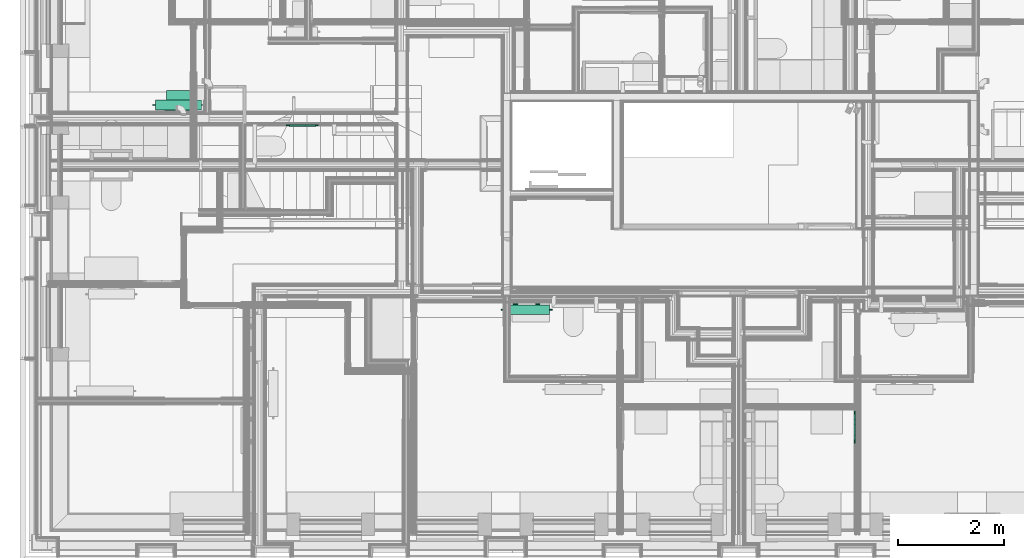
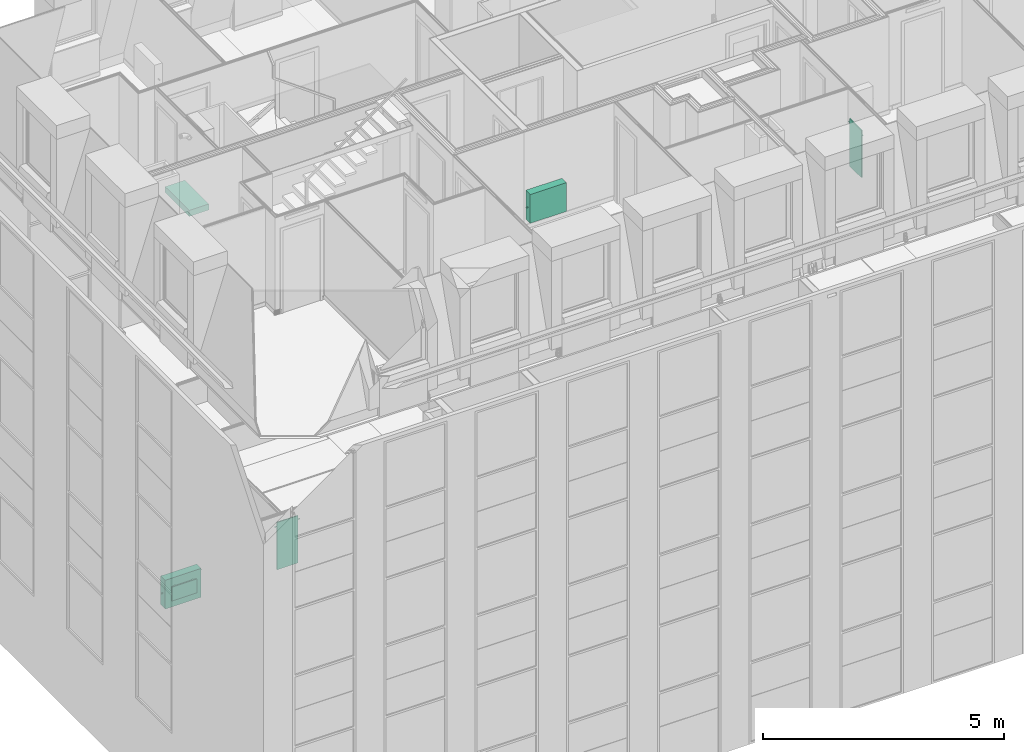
# One storey, part 146 of 169: 5 flow terminals.
"""IFC2X3 building model written with IfcOpenShell, lengths in metres."""

from ifc_helpers import new_model, entity, si_unit, converted_unit, derived_unit, money_unit, direction, frame, origin_with_axes, place, context, subcontext, project, spatial, open_shell, faceted_brep, surface_model, material, type_object, element, save


model = new_model("IFC2X3")

# Units and contexts
model_context = context("Model", 3, precision=1e-05, world=origin_with_axes(), true_north=direction((0.0, 1.0)))
body_context = subcontext(model_context, "Body", "Model", "MODEL_VIEW", scale=1.0)
ifc_project = project(units=[si_unit("LENGTHUNIT", "METRE"), si_unit("AREAUNIT", "SQUARE_METRE"), si_unit("VOLUMEUNIT", "CUBIC_METRE"), si_unit("ABSORBEDDOSEUNIT", "GRAY"), si_unit("AMOUNTOFSUBSTANCEUNIT", "MOLE"), si_unit("DOSEEQUIVALENTUNIT", "SIEVERT"), si_unit("ELECTRICCAPACITANCEUNIT", "FARAD"), si_unit("ELECTRICCHARGEUNIT", "COULOMB"), si_unit("ELECTRICCONDUCTANCEUNIT", "SIEMENS"), si_unit("ELECTRICCURRENTUNIT", "AMPERE"), si_unit("ELECTRICRESISTANCEUNIT", "OHM"), si_unit("ELECTRICVOLTAGEUNIT", "VOLT"), si_unit("ENERGYUNIT", "JOULE"), si_unit("FORCEUNIT", "NEWTON"), si_unit("FREQUENCYUNIT", "HERTZ"), si_unit("ILLUMINANCEUNIT", "LUX"), si_unit("INDUCTANCEUNIT", "HENRY"), si_unit("LUMINOUSFLUXUNIT", "LUMEN"), si_unit("LUMINOUSINTENSITYUNIT", "CANDELA"), si_unit("MAGNETICFLUXDENSITYUNIT", "TESLA"), si_unit("MAGNETICFLUXUNIT", "WEBER"), si_unit("MASSUNIT", "GRAM"), converted_unit("PLANEANGLEUNIT", "degree", entity("IfcReal", 0.0174532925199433), si_unit("PLANEANGLEUNIT", "RADIAN"), dimensions=[0, 0, 0, 0, 0, 0, 0]), si_unit("POWERUNIT", "WATT"), si_unit("PRESSUREUNIT", "PASCAL"), si_unit("RADIOACTIVITYUNIT", "BECQUEREL"), si_unit("SOLIDANGLEUNIT", "STERADIAN"), si_unit("THERMODYNAMICTEMPERATUREUNIT", "KELVIN"), si_unit("TIMEUNIT", "SECOND"), derived_unit("ACCELERATIONUNIT", [(si_unit("LENGTHUNIT", "METRE"), 1), (si_unit("TIMEUNIT", "SECOND"), -2)]), derived_unit("ANGULARVELOCITYUNIT", [(converted_unit("PLANEANGLEUNIT", "degree", entity("IfcReal", 0.0174532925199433), si_unit("PLANEANGLEUNIT", "RADIAN"), dimensions=[0, 0, 0, 0, 0, 0, 0]), 1), (si_unit("TIMEUNIT", "SECOND"), -1)]), derived_unit("CURVATUREUNIT", [(converted_unit("PLANEANGLEUNIT", "degree", entity("IfcReal", 0.0174532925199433), si_unit("PLANEANGLEUNIT", "RADIAN"), dimensions=[0, 0, 0, 0, 0, 0, 0]), 1), (si_unit("LENGTHUNIT", "METRE"), -1)]), derived_unit("DYNAMICVISCOSITYUNIT", [(si_unit("PRESSUREUNIT", "PASCAL"), 1), (si_unit("TIMEUNIT", "SECOND"), 1)]), derived_unit("HEATFLUXDENSITYUNIT", [(si_unit("POWERUNIT", "WATT"), 1), (si_unit("LENGTHUNIT", "METRE"), -2)]), derived_unit("HEATINGVALUEUNIT", [(si_unit("ENERGYUNIT", "JOULE"), 1), (si_unit("MASSUNIT", "GRAM"), -1)]), derived_unit("INTEGERCOUNTRATEUNIT", [(si_unit("TIMEUNIT", "SECOND"), -1)]), derived_unit("IONCONCENTRATIONUNIT", [(si_unit("MASSUNIT", "GRAM"), 1), (si_unit("VOLUMEUNIT", "CUBIC_METRE"), -1)]), derived_unit("ISOTHERMALMOISTURECAPACITYUNIT", [(si_unit("VOLUMEUNIT", "CUBIC_METRE"), 1), (si_unit("MASSUNIT", "GRAM"), -1)]), derived_unit("KINEMATICVISCOSITYUNIT", [(si_unit("AREAUNIT", "SQUARE_METRE"), 1), (si_unit("TIMEUNIT", "SECOND"), -1)]), derived_unit("LINEARFORCEUNIT", [(si_unit("FORCEUNIT", "NEWTON"), 1), (si_unit("LENGTHUNIT", "METRE"), -1)]), derived_unit("LINEARMOMENTUNIT", [(si_unit("FORCEUNIT", "NEWTON"), 1), (si_unit("LENGTHUNIT", "METRE"), -1)]), derived_unit("LINEARSTIFFNESSUNIT", [(si_unit("FORCEUNIT", "NEWTON"), 1), (si_unit("LENGTHUNIT", "METRE"), -1)]), derived_unit("LINEARVELOCITYUNIT", [(si_unit("LENGTHUNIT", "METRE"), 1), (si_unit("TIMEUNIT", "SECOND"), -1)]), derived_unit("LUMINOUSINTENSITYDISTRIBUTIONUNIT", [(si_unit("LUMINOUSINTENSITYUNIT", "CANDELA"), 1), (si_unit("LUMINOUSFLUXUNIT", "LUMEN"), -1)]), derived_unit("MASSDENSITYUNIT", [(si_unit("MASSUNIT", "GRAM"), 1), (si_unit("VOLUMEUNIT", "CUBIC_METRE"), -1)]), derived_unit("MASSFLOWRATEUNIT", [(si_unit("MASSUNIT", "GRAM"), 1), (si_unit("TIMEUNIT", "SECOND"), -1)]), derived_unit("MASSPERLENGTHUNIT", [(si_unit("MASSUNIT", "GRAM"), 1), (si_unit("LENGTHUNIT", "METRE"), -1)]), derived_unit("MODULUSOFELASTICITYUNIT", [(si_unit("FORCEUNIT", "NEWTON"), 1), (si_unit("AREAUNIT", "SQUARE_METRE"), -1)]), derived_unit("MODULUSOFLINEARSUBGRADEREACTIONUNIT", [(si_unit("FORCEUNIT", "NEWTON"), 1), (si_unit("LENGTHUNIT", "METRE"), -2)]), derived_unit("MODULUSOFROTATIONALSUBGRADEREACTIONUNIT", [(si_unit("FORCEUNIT", "NEWTON"), 1), (si_unit("LENGTHUNIT", "METRE"), 1)]), derived_unit("MODULUSOFSUBGRADEREACTIONUNIT", [(si_unit("FORCEUNIT", "NEWTON"), 1), (si_unit("VOLUMEUNIT", "CUBIC_METRE"), -1)]), derived_unit("MOISTUREDIFFUSIVITYUNIT", [(si_unit("VOLUMEUNIT", "CUBIC_METRE"), 1), (si_unit("TIMEUNIT", "SECOND"), -1)]), derived_unit("MOLECULARWEIGHTUNIT", [(si_unit("MASSUNIT", "GRAM"), 1), (si_unit("AMOUNTOFSUBSTANCEUNIT", "MOLE"), -1)]), derived_unit("PLANARFORCEUNIT", [(si_unit("FORCEUNIT", "NEWTON"), 1), (si_unit("LENGTHUNIT", "METRE"), -2)]), derived_unit("ROTATIONALFREQUENCYUNIT", [(si_unit("TIMEUNIT", "SECOND"), -1)]), derived_unit("ROTATIONALMASSUNIT", [(si_unit("MASSUNIT", "GRAM"), 1), (si_unit("LENGTHUNIT", "METRE"), 2)]), derived_unit("ROTATIONALSTIFFNESSUNIT", [(si_unit("FORCEUNIT", "NEWTON"), 1), (si_unit("LENGTHUNIT", "METRE"), 1), (converted_unit("PLANEANGLEUNIT", "degree", entity("IfcReal", 0.0174532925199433), si_unit("PLANEANGLEUNIT", "RADIAN"), dimensions=[0, 0, 0, 0, 0, 0, 0]), -1)]), derived_unit("SECTIONAREAINTEGRALUNIT", [(si_unit("LENGTHUNIT", "METRE"), 5)]), derived_unit("SECTIONMODULUSUNIT", [(si_unit("LENGTHUNIT", "METRE"), 3)]), derived_unit("SHEARMODULUSUNIT", [(si_unit("FORCEUNIT", "NEWTON"), 1), (si_unit("AREAUNIT", "SQUARE_METRE"), -1)]), derived_unit("SOUNDPOWERUNIT", [(si_unit("ENERGYUNIT", "JOULE"), 1), (si_unit("TIMEUNIT", "SECOND"), -1)]), derived_unit("SPECIFICHEATCAPACITYUNIT", [(si_unit("FORCEUNIT", "NEWTON"), 1), (si_unit("MASSUNIT", "GRAM"), -1), (si_unit("THERMODYNAMICTEMPERATUREUNIT", "KELVIN"), -1)]), derived_unit("TEMPERATUREGRADIENTUNIT", [(si_unit("THERMODYNAMICTEMPERATUREUNIT", "KELVIN"), 1), (si_unit("LENGTHUNIT", "METRE"), -1)]), derived_unit("THERMALADMITTANCEUNIT", [(si_unit("POWERUNIT", "WATT"), 1), (si_unit("AREAUNIT", "SQUARE_METRE"), -1), (si_unit("THERMODYNAMICTEMPERATUREUNIT", "KELVIN"), -1)]), derived_unit("THERMALCONDUCTANCEUNIT", [(si_unit("POWERUNIT", "WATT"), 1), (si_unit("LENGTHUNIT", "METRE"), -1), (si_unit("THERMODYNAMICTEMPERATUREUNIT", "KELVIN"), -1)]), derived_unit("THERMALEXPANSIONCOEFFICIENTUNIT", [(si_unit("THERMODYNAMICTEMPERATUREUNIT", "KELVIN"), -1)]), derived_unit("THERMALRESISTANCEUNIT", [(si_unit("AREAUNIT", "SQUARE_METRE"), 1), (si_unit("POWERUNIT", "WATT"), -1)]), derived_unit("THERMALTRANSMITTANCEUNIT", [(si_unit("POWERUNIT", "WATT"), 1), (si_unit("AREAUNIT", "SQUARE_METRE"), -1), (si_unit("THERMODYNAMICTEMPERATUREUNIT", "KELVIN"), -1)]), derived_unit("TORQUEUNIT", [(si_unit("FORCEUNIT", "NEWTON"), 1), (si_unit("LENGTHUNIT", "METRE"), 1)]), derived_unit("VAPORPERMEABILITYUNIT", [(si_unit("MASSUNIT", "GRAM"), 1), (si_unit("TIMEUNIT", "SECOND"), -1)]), derived_unit("VOLUMETRICFLOWRATEUNIT", [(si_unit("VOLUMEUNIT", "CUBIC_METRE"), 1), (si_unit("TIMEUNIT", "SECOND"), -1)]), derived_unit("WARPINGCONSTANTUNIT", [(si_unit("LENGTHUNIT", "METRE"), 6)]), derived_unit("WARPINGMOMENTUNIT", [(si_unit("FORCEUNIT", "NEWTON"), 1), (si_unit("LENGTHUNIT", "METRE"), 2)]), money_unit("GBP")], contexts=[model_context])

# Site, building, storey, space
site_placement = place(None, origin_with_axes())
site = spatial("IfcSite", under=ifc_project, at=site_placement, Name="Site", CompositionType="ELEMENT")
building_placement = place(site_placement, origin_with_axes())
building = spatial("IfcBuilding", under=site, at=building_placement, Name="Building01", CompositionType="ELEMENT")
storey_placement = place(building_placement, frame((0.0, 0.0, 5.15), z_axis=(0.0, 0.0, 1.0), x_axis=(1.0, 0.0, 0.0)))
storey = spatial("IfcBuildingStorey", under=building, at=storey_placement, Name="1F", CompositionType="ELEMENT", Elevation=5.15)
space_1_placement = place(storey_placement, frame((7.064669, 14.582, 0.017975), z_axis=(0.0, 0.0, 1.0), x_axis=(-1.0, 0.0, 0.0)))
space_1 = spatial("IfcSpace", under=storey, at=space_1_placement, Name="07", CompositionType="ELEMENT", InteriorOrExteriorSpace="NOTDEFINED")

# Flow terminal
ifc_material = material(Name="M_BSUK_Ventilation")
space_heater_type_1 = type_object("IfcSpaceHeaterType", Name="M-BmvRadiatorpanel-Panel", PredefinedType="NOTDEFINED")
flow_terminal_1_placement = place(storey_placement, frame((2.540669, 8.58092, 0.665), z_axis=(0.0, 0.0, 1.0), x_axis=(-1.0, 0.0, 0.0)))
element("IfcFlowTerminal", 1, at=flow_terminal_1_placement, inside=space_1, type_object=space_heater_type_1, material=ifc_material, Name="M-BmvRadiatorpanel-Panel", ObjectType="M-BmvRadiatorpanel-Panel", context=body_context, shape_type="SurfaceModel", body=[
    surface_model("IfcShellBasedSurfaceModel", [(-0.865, -0.0925, 0.365), (-0.865, 0.0925, 0.365), (0.0, 0.0925, 0.365), (0.0, -0.0925, 0.365), (-0.865, -0.0925, -0.365), (-0.865, 0.0925, -0.365), (0.0, -0.0925, -0.365), (0.0, 0.0925, -0.365), (-0.1325, 0.12025, 0.175), (-0.7325, 0.12025, 0.175), (-0.7325, 0.14525, 0.175), (-0.1325, 0.14525, 0.175), (-0.7325, 0.14525, -0.175), (-0.1325, 0.14525, -0.175), (-0.7325, 0.12025, -0.175), (-0.1325, 0.12025, -0.175), (-0.2225, 0.0925, 0.0775), (-0.2225, 0.12025, 0.0775), (-0.205279, 0.12025, 0.080925), (-0.205279, 0.0925, 0.080925), (-0.19068, 0.12025, 0.09068), (-0.19068, 0.0925, 0.09068), (-0.180925, 0.12025, 0.105279), (-0.180925, 0.0925, 0.105279), (-0.1775, 0.12025, 0.1225), (-0.1775, 0.0925, 0.1225), (-0.180925, 0.12025, 0.139721), (-0.180925, 0.0925, 0.139721), (-0.19068, 0.12025, 0.15432), (-0.19068, 0.0925, 0.15432), (-0.205279, 0.12025, 0.164075), (-0.205279, 0.0925, 0.164075), (-0.2225, 0.12025, 0.1675), (-0.2225, 0.0925, 0.1675), (-0.239721, 0.12025, 0.164075), (-0.239721, 0.0925, 0.164075), (-0.25432, 0.12025, 0.15432), (-0.25432, 0.0925, 0.15432), (-0.264075, 0.12025, 0.139721), (-0.264075, 0.0925, 0.139721), (-0.2675, 0.12025, 0.1225), (-0.2675, 0.0925, 0.1225), (-0.264075, 0.12025, 0.105279), (-0.264075, 0.0925, 0.105279), (-0.25432, 0.12025, 0.09068), (-0.25432, 0.0925, 0.09068), (-0.239721, 0.12025, 0.080925), (-0.239721, 0.0925, 0.080925), (-0.6425, 0.0925, 0.0775), (-0.6425, 0.12025, 0.0775), (-0.625279, 0.12025, 0.080925), (-0.625279, 0.0925, 0.080925), (-0.61068, 0.12025, 0.09068), (-0.61068, 0.0925, 0.09068), (-0.600925, 0.12025, 0.105279), (-0.600925, 0.0925, 0.105279), (-0.5975, 0.12025, 0.1225), (-0.5975, 0.0925, 0.1225), (-0.600925, 0.12025, 0.139721), (-0.600925, 0.0925, 0.139721), (-0.61068, 0.12025, 0.15432), (-0.61068, 0.0925, 0.15432), (-0.625279, 0.12025, 0.164075), (-0.625279, 0.0925, 0.164075), (-0.6425, 0.12025, 0.1675), (-0.6425, 0.0925, 0.1675), (-0.659721, 0.12025, 0.164075), (-0.659721, 0.0925, 0.164075), (-0.67432, 0.12025, 0.15432), (-0.67432, 0.0925, 0.15432), (-0.684075, 0.12025, 0.139721), (-0.684075, 0.0925, 0.139721), (-0.6875, 0.12025, 0.1225), (-0.6875, 0.0925, 0.1225), (-0.684075, 0.12025, 0.105279), (-0.684075, 0.0925, 0.105279), (-0.67432, 0.12025, 0.09068), (-0.67432, 0.0925, 0.09068), (-0.659721, 0.12025, 0.080925), (-0.659721, 0.0925, 0.080925), (0.05, 0.0, -0.0225), (0.0, 0.0, -0.0225), (0.0, 0.004784, -0.021548), (0.05, 0.004784, -0.021548), (0.0, 0.008839, -0.018839), (0.05, 0.008839, -0.018839), (0.0, 0.011548, -0.014784), (0.05, 0.011548, -0.014784), (0.0, 0.0125, -0.01), (0.05, 0.0125, -0.01), (0.0, 0.011548, -0.005216), (0.05, 0.011548, -0.005216), (0.0, 0.008839, -0.001161), (0.05, 0.008839, -0.001161), (0.0, 0.004784, 0.001548), (0.05, 0.004784, 0.001548), (0.0, 0.0, 0.0025), (0.05, 0.0, 0.0025), (0.0, -0.004784, 0.001548), (0.05, -0.004784, 0.001548), (0.0, -0.008839, -0.001161), (0.05, -0.008839, -0.001161), (0.0, -0.011548, -0.005216), (0.05, -0.011548, -0.005216), (0.0, -0.0125, -0.01), (0.05, -0.0125, -0.01), (0.0, -0.011548, -0.014784), (0.05, -0.011548, -0.014784), (0.0, -0.008839, -0.018839), (0.05, -0.008839, -0.018839), (0.0, -0.004784, -0.021548), (0.05, -0.004784, -0.021548), (-0.915, 0.0, 0.2525), (-0.865, 0.0, 0.2525), (-0.865, -0.004784, 0.253452), (-0.915, -0.004784, 0.253452), (-0.865, -0.008839, 0.256161), (-0.915, -0.008839, 0.256161), (-0.865, -0.011548, 0.260216), (-0.915, -0.011548, 0.260216), (-0.865, -0.0125, 0.265), (-0.915, -0.0125, 0.265), (-0.865, -0.011548, 0.269784), (-0.915, -0.011548, 0.269784), (-0.865, -0.008839, 0.273839), (-0.915, -0.008839, 0.273839), (-0.865, -0.004784, 0.276548), (-0.915, -0.004784, 0.276548), (-0.865, 0.0, 0.2775), (-0.915, 0.0, 0.2775), (-0.865, 0.004784, 0.276548), (-0.915, 0.004784, 0.276548), (-0.865, 0.008839, 0.273839), (-0.915, 0.008839, 0.273839), (-0.865, 0.011548, 0.269784), (-0.915, 0.011548, 0.269784), (-0.865, 0.0125, 0.265), (-0.915, 0.0125, 0.265), (-0.865, 0.011548, 0.260216), (-0.915, 0.011548, 0.260216), (-0.865, 0.008839, 0.256161), (-0.915, 0.008839, 0.256161), (-0.865, 0.004784, 0.253452), (-0.915, 0.004784, 0.253452)], [open_shell([[[0, 1, 2, 3]], [[4, 5, 1, 0]], [[6, 7, 5, 4]], [[3, 2, 7, 6]], [[1, 5, 7, 2]], [[3, 6, 4, 0]], [[8, 9, 10, 11]], [[11, 10, 12, 13]], [[13, 12, 14, 15]], [[15, 14, 9, 8]], [[9, 14, 12, 10]], [[11, 13, 15, 8]], [[16, 17, 18, 19]], [[19, 18, 20, 21]], [[21, 20, 22, 23]], [[23, 22, 24, 25]], [[25, 24, 26, 27]], [[27, 26, 28, 29]], [[29, 28, 30, 31]], [[31, 30, 32, 33]], [[33, 32, 34, 35]], [[35, 34, 36, 37]], [[37, 36, 38, 39]], [[39, 38, 40, 41]], [[41, 40, 42, 43]], [[43, 42, 44, 45]], [[45, 44, 46, 47]], [[47, 46, 17, 16]], [[48, 49, 50, 51]], [[51, 50, 52, 53]], [[53, 52, 54, 55]], [[55, 54, 56, 57]], [[57, 56, 58, 59]], [[59, 58, 60, 61]], [[61, 60, 62, 63]], [[63, 62, 64, 65]], [[65, 64, 66, 67]], [[67, 66, 68, 69]], [[69, 68, 70, 71]], [[71, 70, 72, 73]], [[73, 72, 74, 75]], [[75, 74, 76, 77]], [[77, 76, 78, 79]], [[79, 78, 49, 48]], [[80, 81, 82, 83]], [[83, 82, 84, 85]], [[85, 84, 86, 87]], [[87, 86, 88, 89]], [[89, 88, 90, 91]], [[91, 90, 92, 93]], [[93, 92, 94, 95]], [[95, 94, 96, 97]], [[97, 96, 98, 99]], [[99, 98, 100, 101]], [[101, 100, 102, 103]], [[103, 102, 104, 105]], [[105, 104, 106, 107]], [[107, 106, 108, 109]], [[109, 108, 110, 111]], [[111, 110, 81, 80]], [[112, 113, 114, 115]], [[115, 114, 116, 117]], [[117, 116, 118, 119]], [[119, 118, 120, 121]], [[121, 120, 122, 123]], [[123, 122, 124, 125]], [[125, 124, 126, 127]], [[127, 126, 128, 129]], [[129, 128, 130, 131]], [[131, 130, 132, 133]], [[133, 132, 134, 135]], [[135, 134, 136, 137]], [[137, 136, 138, 139]], [[139, 138, 140, 141]], [[141, 140, 142, 143]], [[143, 142, 113, 112]]])]),
])

# Space
space_2_placement = place(storey_placement, frame((12.175, 4.189428, 9.86), z_axis=(0.0, 0.0, 1.0), x_axis=(0.0, 1.0, 0.0)))
space_2 = spatial("IfcSpace", under=storey, at=space_2_placement, Name="25", CompositionType="ELEMENT", InteriorOrExteriorSpace="NOTDEFINED")

# Flow terminal
flow_terminal_2_placement = place(storey_placement, frame((9.0825, 4.73475, 10.495), z_axis=(0.0, 0.0, 1.0), x_axis=(1.0, 0.0, 0.0)))
element("IfcFlowTerminal", 2, at=flow_terminal_2_placement, inside=space_2, type_object=space_heater_type_1, material=ifc_material, Name="M-BmvRadiatorpanel-Panel", ObjectType="M-BmvRadiatorpanel-Panel", context=body_context, shape_type="SurfaceModel", body=[
    surface_model("IfcShellBasedSurfaceModel", [(0.865, -0.0925, 0.365), (0.865, 0.0925, 0.365), (0.0, 0.0925, 0.365), (0.0, -0.0925, 0.365), (0.865, -0.0925, -0.365), (0.865, 0.0925, -0.365), (0.0, -0.0925, -0.365), (0.0, 0.0925, -0.365), (0.1325, 0.12025, 0.175), (0.7325, 0.12025, 0.175), (0.7325, 0.14525, 0.175), (0.1325, 0.14525, 0.175), (0.7325, 0.14525, -0.175), (0.1325, 0.14525, -0.175), (0.7325, 0.12025, -0.175), (0.1325, 0.12025, -0.175), (0.2225, 0.0925, 0.0775), (0.2225, 0.12025, 0.0775), (0.239721, 0.12025, 0.080925), (0.239721, 0.0925, 0.080925), (0.25432, 0.12025, 0.09068), (0.25432, 0.0925, 0.09068), (0.264075, 0.12025, 0.105279), (0.264075, 0.0925, 0.105279), (0.2675, 0.12025, 0.1225), (0.2675, 0.0925, 0.1225), (0.264075, 0.12025, 0.139721), (0.264075, 0.0925, 0.139721), (0.25432, 0.12025, 0.15432), (0.25432, 0.0925, 0.15432), (0.239721, 0.12025, 0.164075), (0.239721, 0.0925, 0.164075), (0.2225, 0.12025, 0.1675), (0.2225, 0.0925, 0.1675), (0.205279, 0.12025, 0.164075), (0.205279, 0.0925, 0.164075), (0.19068, 0.12025, 0.15432), (0.19068, 0.0925, 0.15432), (0.180925, 0.12025, 0.139721), (0.180925, 0.0925, 0.139721), (0.1775, 0.12025, 0.1225), (0.1775, 0.0925, 0.1225), (0.180925, 0.12025, 0.105279), (0.180925, 0.0925, 0.105279), (0.19068, 0.12025, 0.09068), (0.19068, 0.0925, 0.09068), (0.205279, 0.12025, 0.080925), (0.205279, 0.0925, 0.080925), (0.6425, 0.0925, 0.0775), (0.6425, 0.12025, 0.0775), (0.659721, 0.12025, 0.080925), (0.659721, 0.0925, 0.080925), (0.67432, 0.12025, 0.09068), (0.67432, 0.0925, 0.09068), (0.684075, 0.12025, 0.105279), (0.684075, 0.0925, 0.105279), (0.6875, 0.12025, 0.1225), (0.6875, 0.0925, 0.1225), (0.684075, 0.12025, 0.139721), (0.684075, 0.0925, 0.139721), (0.67432, 0.12025, 0.15432), (0.67432, 0.0925, 0.15432), (0.659721, 0.12025, 0.164075), (0.659721, 0.0925, 0.164075), (0.6425, 0.12025, 0.1675), (0.6425, 0.0925, 0.1675), (0.625279, 0.12025, 0.164075), (0.625279, 0.0925, 0.164075), (0.61068, 0.12025, 0.15432), (0.61068, 0.0925, 0.15432), (0.600925, 0.12025, 0.139721), (0.600925, 0.0925, 0.139721), (0.5975, 0.12025, 0.1225), (0.5975, 0.0925, 0.1225), (0.600925, 0.12025, 0.105279), (0.600925, 0.0925, 0.105279), (0.61068, 0.12025, 0.09068), (0.61068, 0.0925, 0.09068), (0.625279, 0.12025, 0.080925), (0.625279, 0.0925, 0.080925), (-0.05, 0.0, -0.0225), (0.0, 0.0, -0.0225), (0.0, -0.004784, -0.021548), (-0.05, -0.004784, -0.021548), (0.0, -0.008839, -0.018839), (-0.05, -0.008839, -0.018839), (0.0, -0.011548, -0.014784), (-0.05, -0.011548, -0.014784), (0.0, -0.0125, -0.01), (-0.05, -0.0125, -0.01), (0.0, -0.011548, -0.005216), (-0.05, -0.011548, -0.005216), (0.0, -0.008839, -0.001161), (-0.05, -0.008839, -0.001161), (0.0, -0.004784, 0.001548), (-0.05, -0.004784, 0.001548), (0.0, 0.0, 0.0025), (-0.05, 0.0, 0.0025), (0.0, 0.004784, 0.001548), (-0.05, 0.004784, 0.001548), (0.0, 0.008839, -0.001161), (-0.05, 0.008839, -0.001161), (0.0, 0.011548, -0.005216), (-0.05, 0.011548, -0.005216), (0.0, 0.0125, -0.01), (-0.05, 0.0125, -0.01), (0.0, 0.011548, -0.014784), (-0.05, 0.011548, -0.014784), (0.0, 0.008839, -0.018839), (-0.05, 0.008839, -0.018839), (0.0, 0.004784, -0.021548), (-0.05, 0.004784, -0.021548), (0.915, 0.0, 0.2525), (0.865, 0.0, 0.2525), (0.865, 0.004784, 0.253452), (0.915, 0.004784, 0.253452), (0.865, 0.008839, 0.256161), (0.915, 0.008839, 0.256161), (0.865, 0.011548, 0.260216), (0.915, 0.011548, 0.260216), (0.865, 0.0125, 0.265), (0.915, 0.0125, 0.265), (0.865, 0.011548, 0.269784), (0.915, 0.011548, 0.269784), (0.865, 0.008839, 0.273839), (0.915, 0.008839, 0.273839), (0.865, 0.004784, 0.276548), (0.915, 0.004784, 0.276548), (0.865, 0.0, 0.2775), (0.915, 0.0, 0.2775), (0.865, -0.004784, 0.276548), (0.915, -0.004784, 0.276548), (0.865, -0.008839, 0.273839), (0.915, -0.008839, 0.273839), (0.865, -0.011548, 0.269784), (0.915, -0.011548, 0.269784), (0.865, -0.0125, 0.265), (0.915, -0.0125, 0.265), (0.865, -0.011548, 0.260216), (0.915, -0.011548, 0.260216), (0.865, -0.008839, 0.256161), (0.915, -0.008839, 0.256161), (0.865, -0.004784, 0.253452), (0.915, -0.004784, 0.253452)], [open_shell([[[0, 1, 2, 3]], [[4, 5, 1, 0]], [[6, 7, 5, 4]], [[3, 2, 7, 6]], [[1, 5, 7, 2]], [[3, 6, 4, 0]], [[8, 9, 10, 11]], [[11, 10, 12, 13]], [[13, 12, 14, 15]], [[15, 14, 9, 8]], [[9, 14, 12, 10]], [[11, 13, 15, 8]], [[16, 17, 18, 19]], [[19, 18, 20, 21]], [[21, 20, 22, 23]], [[23, 22, 24, 25]], [[25, 24, 26, 27]], [[27, 26, 28, 29]], [[29, 28, 30, 31]], [[31, 30, 32, 33]], [[33, 32, 34, 35]], [[35, 34, 36, 37]], [[37, 36, 38, 39]], [[39, 38, 40, 41]], [[41, 40, 42, 43]], [[43, 42, 44, 45]], [[45, 44, 46, 47]], [[47, 46, 17, 16]], [[48, 49, 50, 51]], [[51, 50, 52, 53]], [[53, 52, 54, 55]], [[55, 54, 56, 57]], [[57, 56, 58, 59]], [[59, 58, 60, 61]], [[61, 60, 62, 63]], [[63, 62, 64, 65]], [[65, 64, 66, 67]], [[67, 66, 68, 69]], [[69, 68, 70, 71]], [[71, 70, 72, 73]], [[73, 72, 74, 75]], [[75, 74, 76, 77]], [[77, 76, 78, 79]], [[79, 78, 49, 48]], [[80, 81, 82, 83]], [[83, 82, 84, 85]], [[85, 84, 86, 87]], [[87, 86, 88, 89]], [[89, 88, 90, 91]], [[91, 90, 92, 93]], [[93, 92, 94, 95]], [[95, 94, 96, 97]], [[97, 96, 98, 99]], [[99, 98, 100, 101]], [[101, 100, 102, 103]], [[103, 102, 104, 105]], [[105, 104, 106, 107]], [[107, 106, 108, 109]], [[109, 108, 110, 111]], [[111, 110, 81, 80]], [[112, 113, 114, 115]], [[115, 114, 116, 117]], [[117, 116, 118, 119]], [[119, 118, 120, 121]], [[121, 120, 122, 123]], [[123, 122, 124, 125]], [[125, 124, 126, 127]], [[127, 126, 128, 129]], [[129, 128, 130, 131]], [[131, 130, 132, 133]], [[133, 132, 134, 135]], [[135, 134, 136, 137]], [[137, 136, 138, 139]], [[139, 138, 140, 141]], [[141, 140, 142, 143]], [[143, 142, 113, 112]]])]),
])

# Space
space_3_placement = place(storey_placement, frame((4.24073, 6.606475, 0.017975), z_axis=(0.0, 0.0, 1.0), x_axis=(1.0, 0.0, 0.0)))
space_3 = spatial("IfcSpace", under=storey, at=space_3_placement, Name="bath", CompositionType="ELEMENT", InteriorOrExteriorSpace="NOTDEFINED")

# Flow terminal
space_heater_type_2 = type_object("IfcSpaceHeaterType", Name="M-BmvRadiator-Column", PredefinedType="NOTDEFINED")
flow_terminal_3_placement = place(storey_placement, frame((5.054088, 8.19817, 1.2), z_axis=(0.0, 0.0, 1.0), x_axis=(1.0, 0.0, 0.0)))
element("IfcFlowTerminal", 3, at=flow_terminal_3_placement, inside=space_3, type_object=space_heater_type_2, material=ifc_material, Name="M-BmvRadiator-Column", ObjectType="M-BmvRadiator-Column", context=body_context, shape_type="SurfaceModel", body=[
    surface_model("IfcShellBasedSurfaceModel", [(0.0, -0.0125, 0.6), (0.0, -0.0125, -0.6), (0.0, 0.0125, -0.6), (0.0, 0.0125, 0.6), (0.5, -0.0125, 0.6), (0.5, -0.0125, -0.6), (0.5, 0.0125, -0.6), (0.5, 0.0125, 0.6), (0.1, 0.0125, 0.6), (0.1, -0.0125, 0.6), (0.1, -0.0125, -0.6), (0.1, 0.0125, -0.6), (0.2, 0.0125, 0.6), (0.2, -0.0125, 0.6), (0.2, -0.0125, -0.6), (0.2, 0.0125, -0.6), (0.3, 0.0125, 0.6), (0.3, -0.0125, 0.6), (0.3, -0.0125, -0.6), (0.3, 0.0125, -0.6), (0.4, 0.0125, 0.6), (0.4, -0.0125, 0.6), (0.4, -0.0125, -0.6), (0.4, 0.0125, -0.6), (-0.05, 0.0, 0.4825), (0.0, 0.0, 0.4825), (0.0, -0.003827, 0.483261), (-0.05, -0.003827, 0.483261), (0.0, -0.007071, 0.485429), (-0.05, -0.007071, 0.485429), (0.0, -0.009239, 0.488673), (-0.05, -0.009239, 0.488673), (0.0, -0.01, 0.4925), (-0.05, -0.01, 0.4925), (0.0, -0.009239, 0.496327), (-0.05, -0.009239, 0.496327), (0.0, -0.007071, 0.499571), (-0.05, -0.007071, 0.499571), (0.0, -0.003827, 0.501739), (-0.05, -0.003827, 0.501739), (0.0, 0.0, 0.5025), (-0.05, 0.0, 0.5025), (0.0, 0.003827, 0.501739), (-0.05, 0.003827, 0.501739), (0.0, 0.007071, 0.499571), (-0.05, 0.007071, 0.499571), (0.0, 0.009239, 0.496327), (-0.05, 0.009239, 0.496327), (0.0, 0.01, 0.4925), (-0.05, 0.01, 0.4925), (0.0, 0.009239, 0.488673), (-0.05, 0.009239, 0.488673), (0.0, 0.007071, 0.485429), (-0.05, 0.007071, 0.485429), (0.0, 0.003827, 0.483261), (-0.05, 0.003827, 0.483261), (0.55, 0.0, 0.4884), (0.5, 0.0, 0.4884), (0.5, 0.003827, 0.489161), (0.55, 0.003827, 0.489161), (0.5, 0.007071, 0.491329), (0.55, 0.007071, 0.491329), (0.5, 0.009239, 0.494573), (0.55, 0.009239, 0.494573), (0.5, 0.01, 0.4984), (0.55, 0.01, 0.4984), (0.5, 0.009239, 0.502227), (0.55, 0.009239, 0.502227), (0.5, 0.007071, 0.505471), (0.55, 0.007071, 0.505471), (0.5, 0.003827, 0.507639), (0.55, 0.003827, 0.507639), (0.5, 0.0, 0.5084), (0.55, 0.0, 0.5084), (0.5, -0.003827, 0.507639), (0.55, -0.003827, 0.507639), (0.5, -0.007071, 0.505471), (0.55, -0.007071, 0.505471), (0.5, -0.009239, 0.502227), (0.55, -0.009239, 0.502227), (0.5, -0.01, 0.4984), (0.55, -0.01, 0.4984), (0.5, -0.009239, 0.494573), (0.55, -0.009239, 0.494573), (0.5, -0.007071, 0.491329), (0.55, -0.007071, 0.491329), (0.5, -0.003827, 0.489161), (0.55, -0.003827, 0.489161)], [open_shell([[[0, 1, 2, 3]], [[4, 5, 6, 7]], [[8, 3, 0, 9]], [[9, 0, 1, 10]], [[10, 1, 2, 11]], [[11, 2, 3, 8]], [[12, 8, 9, 13]], [[13, 9, 10, 14]], [[14, 10, 11, 15]], [[15, 11, 8, 12]], [[16, 12, 13, 17]], [[17, 13, 14, 18]], [[18, 14, 15, 19]], [[19, 15, 12, 16]], [[20, 16, 17, 21]], [[21, 17, 18, 22]], [[22, 18, 19, 23]], [[23, 19, 16, 20]], [[7, 20, 21, 4]], [[4, 21, 22, 5]], [[5, 22, 23, 6]], [[6, 23, 20, 7]], [[24, 25, 26, 27]], [[27, 26, 28, 29]], [[29, 28, 30, 31]], [[31, 30, 32, 33]], [[33, 32, 34, 35]], [[35, 34, 36, 37]], [[37, 36, 38, 39]], [[39, 38, 40, 41]], [[41, 40, 42, 43]], [[43, 42, 44, 45]], [[45, 44, 46, 47]], [[47, 46, 48, 49]], [[49, 48, 50, 51]], [[51, 50, 52, 53]], [[53, 52, 54, 55]], [[55, 54, 25, 24]], [[56, 57, 58, 59]], [[59, 58, 60, 61]], [[61, 60, 62, 63]], [[63, 62, 64, 65]], [[65, 64, 66, 67]], [[67, 66, 68, 69]], [[69, 68, 70, 71]], [[71, 70, 72, 73]], [[73, 72, 74, 75]], [[75, 74, 76, 77]], [[77, 76, 78, 79]], [[79, 78, 80, 81]], [[81, 80, 82, 83]], [[83, 82, 84, 85]], [[85, 84, 86, 87]], [[87, 86, 57, 56]]])]),
])

# Space
space_4_placement = place(storey_placement, frame((15.69, 2.869761, 9.86), z_axis=(0.0, 0.0, 1.0), x_axis=(-1.0, 0.0, 0.0)))
space_4 = spatial("IfcSpace", under=storey, at=space_4_placement, Name="ensuite", CompositionType="ELEMENT", InteriorOrExteriorSpace="NOTDEFINED")

# Flow terminal
flow_terminal_4_placement = place(storey_placement, frame((15.6775, 2.780835, 11.015), z_axis=(0.0, 0.0, 1.0), x_axis=(0.0, -1.0, 0.0)))
element("IfcFlowTerminal", 4, at=flow_terminal_4_placement, inside=space_4, type_object=space_heater_type_2, material=ifc_material, Name="M-BmvRadiator-Column", ObjectType="M-BmvRadiator-Column", context=body_context, shape_type="SurfaceModel", body=[
    surface_model("IfcShellBasedSurfaceModel", [(0.0, -0.0125, 0.6), (0.0, -0.0125, -0.6), (0.0, 0.0125, -0.6), (0.0, 0.0125, 0.6), (0.5, -0.0125, 0.6), (0.5, -0.0125, -0.6), (0.5, 0.0125, -0.6), (0.5, 0.0125, 0.6), (0.1, 0.0125, 0.6), (0.1, -0.0125, 0.6), (0.1, -0.0125, -0.6), (0.1, 0.0125, -0.6), (0.2, 0.0125, 0.6), (0.2, -0.0125, 0.6), (0.2, -0.0125, -0.6), (0.2, 0.0125, -0.6), (0.3, 0.0125, 0.6), (0.3, -0.0125, 0.6), (0.3, -0.0125, -0.6), (0.3, 0.0125, -0.6), (0.4, 0.0125, 0.6), (0.4, -0.0125, 0.6), (0.4, -0.0125, -0.6), (0.4, 0.0125, -0.6), (-0.05, 0.0, 0.4825), (0.0, 0.0, 0.4825), (0.0, -0.003827, 0.483261), (-0.05, -0.003827, 0.483261), (0.0, -0.007071, 0.485429), (-0.05, -0.007071, 0.485429), (0.0, -0.009239, 0.488673), (-0.05, -0.009239, 0.488673), (0.0, -0.01, 0.4925), (-0.05, -0.01, 0.4925), (0.0, -0.009239, 0.496327), (-0.05, -0.009239, 0.496327), (0.0, -0.007071, 0.499571), (-0.05, -0.007071, 0.499571), (0.0, -0.003827, 0.501739), (-0.05, -0.003827, 0.501739), (0.0, 0.0, 0.5025), (-0.05, 0.0, 0.5025), (0.0, 0.003827, 0.501739), (-0.05, 0.003827, 0.501739), (0.0, 0.007071, 0.499571), (-0.05, 0.007071, 0.499571), (0.0, 0.009239, 0.496327), (-0.05, 0.009239, 0.496327), (0.0, 0.01, 0.4925), (-0.05, 0.01, 0.4925), (0.0, 0.009239, 0.488673), (-0.05, 0.009239, 0.488673), (0.0, 0.007071, 0.485429), (-0.05, 0.007071, 0.485429), (0.0, 0.003827, 0.483261), (-0.05, 0.003827, 0.483261), (0.55, 0.0, 0.4884), (0.5, 0.0, 0.4884), (0.5, 0.003827, 0.489161), (0.55, 0.003827, 0.489161), (0.5, 0.007071, 0.491329), (0.55, 0.007071, 0.491329), (0.5, 0.009239, 0.494573), (0.55, 0.009239, 0.494573), (0.5, 0.01, 0.4984), (0.55, 0.01, 0.4984), (0.5, 0.009239, 0.502227), (0.55, 0.009239, 0.502227), (0.5, 0.007071, 0.505471), (0.55, 0.007071, 0.505471), (0.5, 0.003827, 0.507639), (0.55, 0.003827, 0.507639), (0.5, 0.0, 0.5084), (0.55, 0.0, 0.5084), (0.5, -0.003827, 0.507639), (0.55, -0.003827, 0.507639), (0.5, -0.007071, 0.505471), (0.55, -0.007071, 0.505471), (0.5, -0.009239, 0.502227), (0.55, -0.009239, 0.502227), (0.5, -0.01, 0.4984), (0.55, -0.01, 0.4984), (0.5, -0.009239, 0.494573), (0.55, -0.009239, 0.494573), (0.5, -0.007071, 0.491329), (0.55, -0.007071, 0.491329), (0.5, -0.003827, 0.489161), (0.55, -0.003827, 0.489161)], [open_shell([[[0, 1, 2, 3]], [[4, 5, 6, 7]], [[8, 3, 0, 9]], [[9, 0, 1, 10]], [[10, 1, 2, 11]], [[11, 2, 3, 8]], [[12, 8, 9, 13]], [[13, 9, 10, 14]], [[14, 10, 11, 15]], [[15, 11, 8, 12]], [[16, 12, 13, 17]], [[17, 13, 14, 18]], [[18, 14, 15, 19]], [[19, 15, 12, 16]], [[20, 16, 17, 21]], [[21, 17, 18, 22]], [[22, 18, 19, 23]], [[23, 19, 16, 20]], [[7, 20, 21, 4]], [[4, 21, 22, 5]], [[5, 22, 23, 6]], [[6, 23, 20, 7]], [[24, 25, 26, 27]], [[27, 26, 28, 29]], [[29, 28, 30, 31]], [[31, 30, 32, 33]], [[33, 32, 34, 35]], [[35, 34, 36, 37]], [[37, 36, 38, 39]], [[39, 38, 40, 41]], [[41, 40, 42, 43]], [[43, 42, 44, 45]], [[45, 44, 46, 47]], [[47, 46, 48, 49]], [[49, 48, 50, 51]], [[51, 50, 52, 53]], [[53, 52, 54, 55]], [[55, 54, 25, 24]], [[56, 57, 58, 59]], [[59, 58, 60, 61]], [[61, 60, 62, 63]], [[63, 62, 64, 65]], [[65, 64, 66, 67]], [[67, 66, 68, 69]], [[69, 68, 70, 71]], [[71, 70, 72, 73]], [[73, 72, 74, 75]], [[75, 74, 76, 77]], [[77, 76, 78, 79]], [[79, 78, 80, 81]], [[81, 80, 82, 83]], [[83, 82, 84, 85]], [[85, 84, 86, 87]], [[87, 86, 57, 56]]])]),
])

# Space
space_5_placement = place(storey_placement, frame((1.009939, 13.890379, 9.86), z_axis=(0.0, 0.0, 1.0), x_axis=(0.0, -1.0, 0.0)))
space_5 = spatial("IfcSpace", under=storey, at=space_5_placement, Name="26", CompositionType="ELEMENT", InteriorOrExteriorSpace="NOTDEFINED")

# Flow terminal
sanitary_terminal_type = type_object("IfcSanitaryTerminalType", Name="SHE_A-Sink_47x100", PredefinedType="NOTDEFINED")
flow_terminal_5_placement = place(storey_placement, frame((2.985, 8.353, 10.650999), z_axis=(0.0, 0.0, 1.0), x_axis=(-1.0, 0.0, 0.0)))
element("IfcFlowTerminal", 5, at=flow_terminal_5_placement, inside=space_5, type_object=sanitary_terminal_type, Name="26", ObjectType="SHE_A-Sink_47x100", context=body_context, shape_type="Brep", body=[
    faceted_brep([(-0.235, 0.5, -0.075), (-0.235, 0.5, 0.075001), (0.235, 0.5, 0.075001), (0.235, 0.5, -0.075), (0.235, -0.5, 0.075001), (0.235, -0.5, -0.075), (-0.235, -0.5, 0.075001), (-0.235, -0.5, -0.075)], [[[0, 1, 2, 3]], [[3, 2, 4, 5]], [[5, 4, 6, 7]], [[7, 6, 1, 0]], [[1, 6, 4, 2]], [[3, 5, 7, 0]]]),
])

save(model, "model.ifc")
